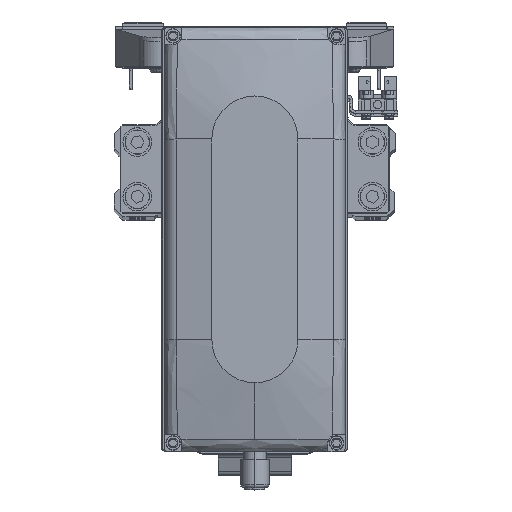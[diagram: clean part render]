
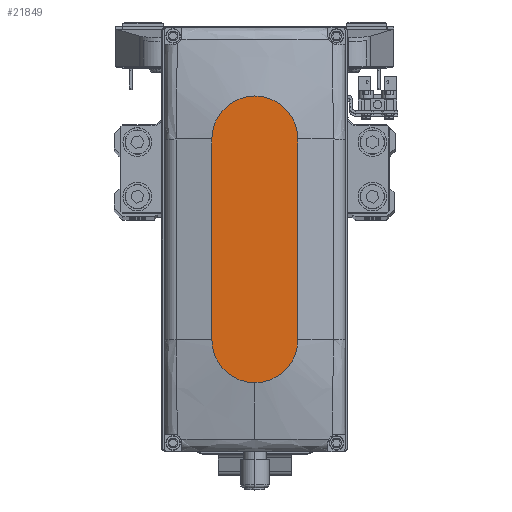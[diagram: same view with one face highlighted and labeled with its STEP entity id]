
A CAD part, top view. The second image highlights one B-rep face of the part: STEP entity #21849.
In plain terms, the highlighted planar face has unit normal (0, 0, 1).
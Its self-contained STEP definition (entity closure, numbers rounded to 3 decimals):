
#319 = DIRECTION ( 'NONE',  ( 0., 0., 1. ) ) ;
#818 = EDGE_LOOP ( 'NONE', ( #10390, #45172, #30035, #35503, #42943 ) ) ;
#943 = VERTEX_POINT ( 'NONE', #18283 ) ;
#2233 = DIRECTION ( 'NONE',  ( 1., 0., 0. ) ) ;
#3515 = CIRCLE ( 'NONE', #29654, 15. ) ;
#3822 = FACE_OUTER_BOUND ( 'NONE', #818, .T. ) ;
#3968 = EDGE_CURVE ( 'NONE', #22891, #943, #28173, .T. ) ;
#4016 = DIRECTION ( 'NONE',  ( 1., 0., 0. ) ) ;
#4921 = CIRCLE ( 'NONE', #31070, 15. ) ;
#5715 = VERTEX_POINT ( 'NONE', #28169 ) ;
#6535 = DIRECTION ( 'NONE',  ( 1., 0., 0. ) ) ;
#7996 = AXIS2_PLACEMENT_3D ( 'NONE', #21817, #36065, #4016 ) ;
#8910 = DIRECTION ( 'NONE',  ( -1., 0., 0. ) ) ;
#9110 = EDGE_CURVE ( 'NONE', #34399, #22891, #12182, .T. ) ;
#10390 = ORIENTED_EDGE ( 'NONE', *, *, #16258, .T. ) ;
#11343 = VERTEX_POINT ( 'NONE', #44118 ) ;
#12182 = LINE ( 'NONE', #26455, #43804 ) ;
#14575 = DIRECTION ( 'NONE',  ( 1., 0., 0. ) ) ;
#15769 = VECTOR ( 'NONE', #8910, 1000. ) ;
#16258 = EDGE_CURVE ( 'NONE', #5715, #11343, #26683, .T. ) ;
#18098 = PLANE ( 'NONE',  #30273 ) ;
#18283 = CARTESIAN_POINT ( 'NONE',  ( 50., 0., 35. ) ) ;
#20030 = CARTESIAN_POINT ( 'NONE',  ( -35., 0., 35. ) ) ;
#21817 = CARTESIAN_POINT ( 'NONE',  ( 35., 0., 35. ) ) ;
#21849 = ADVANCED_FACE ( 'NONE', ( #3822 ), #18098, .T. ) ;
#22891 = VERTEX_POINT ( 'NONE', #44771 ) ;
#23678 = CARTESIAN_POINT ( 'NONE',  ( 35., 0., 35. ) ) ;
#26455 = CARTESIAN_POINT ( 'NONE',  ( -35., -15., 35. ) ) ;
#26683 = LINE ( 'NONE', #40932, #15769 ) ;
#27857 = EDGE_CURVE ( 'NONE', #943, #5715, #3515, .T. ) ;
#28169 = CARTESIAN_POINT ( 'NONE',  ( 35., 15., 35. ) ) ;
#28173 = CIRCLE ( 'NONE', #7996, 15. ) ;
#29654 = AXIS2_PLACEMENT_3D ( 'NONE', #23678, #37943, #6535 ) ;
#30035 = ORIENTED_EDGE ( 'NONE', *, *, #9110, .T. ) ;
#30273 = AXIS2_PLACEMENT_3D ( 'NONE', #32355, #319, #14575 ) ;
#31070 = AXIS2_PLACEMENT_3D ( 'NONE', #20030, #34288, #2233 ) ;
#32355 = CARTESIAN_POINT ( 'NONE',  ( 0., 0., 35. ) ) ;
#33516 = EDGE_CURVE ( 'NONE', #11343, #34399, #4921, .T. ) ;
#34288 = DIRECTION ( 'NONE',  ( 0., 0., 1. ) ) ;
#34399 = VERTEX_POINT ( 'NONE', #34857 ) ;
#34857 = CARTESIAN_POINT ( 'NONE',  ( -35., -15., 35. ) ) ;
#35503 = ORIENTED_EDGE ( 'NONE', *, *, #3968, .T. ) ;
#36065 = DIRECTION ( 'NONE',  ( 0., 0., 1. ) ) ;
#37943 = DIRECTION ( 'NONE',  ( 0., 0., 1. ) ) ;
#40694 = DIRECTION ( 'NONE',  ( 1., 0., 0. ) ) ;
#40932 = CARTESIAN_POINT ( 'NONE',  ( -35., 15., 35. ) ) ;
#42943 = ORIENTED_EDGE ( 'NONE', *, *, #27857, .T. ) ;
#43804 = VECTOR ( 'NONE', #40694, 1000. ) ;
#44118 = CARTESIAN_POINT ( 'NONE',  ( -35., 15., 35. ) ) ;
#44771 = CARTESIAN_POINT ( 'NONE',  ( 35., -15., 35. ) ) ;
#45172 = ORIENTED_EDGE ( 'NONE', *, *, #33516, .T. ) ;
